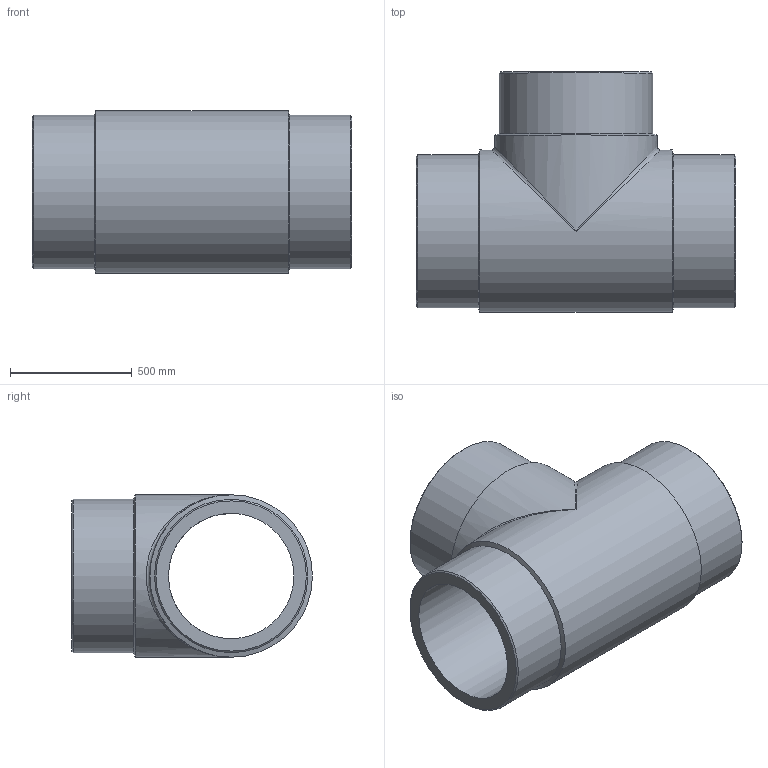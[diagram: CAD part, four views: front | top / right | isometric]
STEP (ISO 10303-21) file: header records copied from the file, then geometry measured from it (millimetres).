
FILE_DESCRIPTION(/* description */ ('Unknown'),/* implementation_level */ '2;1');
FILE_NAME(/* name */ 'TP630C',/* time_stamp */ '2022-12-01T15:27:57+01:00',/* author */ ('Unknown'),/* organization */ ('Unknown'),/* preprocessor_version */ 'ST-DEVELOPER v18.1',/* originating_system */ 'Solid Edge',/* authorisation */ 'Unknown');
FILE_SCHEMA (('AUTOMOTIVE_DESIGN {1 0 10303 214 3 1 1}'));
Length unit declared in the file: millimetre
Products named in the file (1): TP630C
Bounding box: 1312 x 990 x 668 mm (x, y, z)
Volume: 195085477.4 mm3; surface area: 6168937.5 mm2
Topology: 1 solids, 1 shells, 18 faces, 44 edges, 23 vertices
Faces by surface type: cylinder 7, cone 6, plane 3, bspline 2
Full cylindrical faces by diameter (mm): 515.6 x2, 630 x3, 668 x2
Entity records: 528 total; most frequent: CARTESIAN_POINT 171, DIRECTION 76, ORIENTED_EDGE 42, AXIS2_PLACEMENT_3D 38, EDGE_LOOP 36, FACE_BOUND 36, EDGE_CURVE 21, VERTEX_POINT 19
